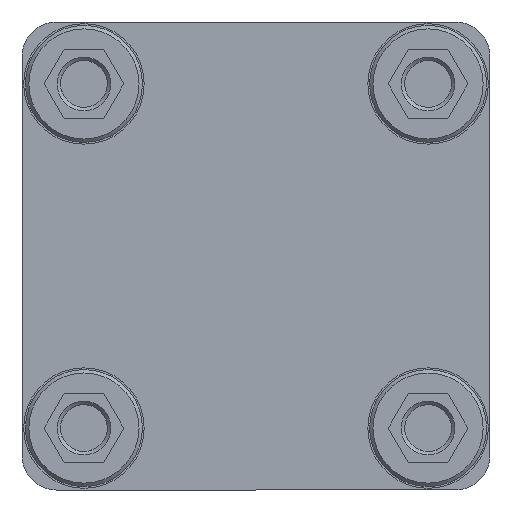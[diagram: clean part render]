
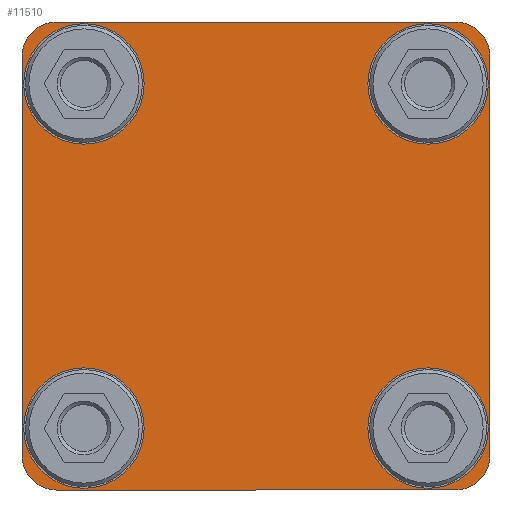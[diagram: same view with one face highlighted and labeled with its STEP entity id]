
A CAD part, left-side view. The second image highlights one B-rep face of the part: STEP entity #11510.
In plain terms, the highlighted planar face has unit normal (-1, 0, 0) as drawn and (1, 0, 0) by its records, which use the part's own axes.
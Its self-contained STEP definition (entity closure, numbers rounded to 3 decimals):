
#1345=FACE_BOUND('',#2401,.T.);
#1346=FACE_BOUND('',#2402,.T.);
#1347=FACE_BOUND('',#2403,.T.);
#1348=FACE_BOUND('',#2404,.T.);
#1476=PLANE('',#12356);
#1720=FACE_OUTER_BOUND('',#2400,.T.);
#2400=EDGE_LOOP('',(#7968,#7969,#7970,#7971,#7972,#7973,#7974,#7975));
#2401=EDGE_LOOP('',(#7976));
#2402=EDGE_LOOP('',(#7977));
#2403=EDGE_LOOP('',(#7978));
#2404=EDGE_LOOP('',(#7979));
#3162=LINE('',#15477,#3913);
#3166=LINE('',#15486,#3917);
#3172=LINE('',#15499,#3923);
#3176=LINE('',#15510,#3927);
#3913=VECTOR('',#13148,58.);
#3917=VECTOR('',#13154,58.);
#3923=VECTOR('',#13162,58.);
#3927=VECTOR('',#13170,58.);
#4652=CIRCLE('',#12285,8.75);
#4655=CIRCLE('',#12290,8.75);
#4658=CIRCLE('',#12295,8.75);
#4661=CIRCLE('',#12300,8.75);
#4676=CIRCLE('',#12328,5.);
#4677=CIRCLE('',#12330,5.);
#4678=CIRCLE('',#12332,5.);
#4679=CIRCLE('',#12334,5.);
#4881=VERTEX_POINT('',#15385);
#4884=VERTEX_POINT('',#15394);
#4887=VERTEX_POINT('',#15403);
#4890=VERTEX_POINT('',#15412);
#4903=VERTEX_POINT('',#15475);
#4904=VERTEX_POINT('',#15476);
#4907=VERTEX_POINT('',#15484);
#4908=VERTEX_POINT('',#15485);
#4913=VERTEX_POINT('',#15496);
#4914=VERTEX_POINT('',#15498);
#4918=VERTEX_POINT('',#15507);
#4919=VERTEX_POINT('',#15509);
#6062=EDGE_CURVE('',#4881,#4881,#4652,.T.);
#6066=EDGE_CURVE('',#4884,#4884,#4655,.T.);
#6070=EDGE_CURVE('',#4887,#4887,#4658,.T.);
#6074=EDGE_CURVE('',#4890,#4890,#4661,.T.);
#6094=EDGE_CURVE('',#4903,#4904,#3162,.T.);
#6098=EDGE_CURVE('',#4907,#4908,#3166,.T.);
#6104=EDGE_CURVE('',#4913,#4914,#3172,.T.);
#6109=EDGE_CURVE('',#4918,#4919,#3176,.T.);
#6116=EDGE_CURVE('',#4918,#4904,#4676,.T.);
#6117=EDGE_CURVE('',#4903,#4908,#4677,.T.);
#6118=EDGE_CURVE('',#4913,#4919,#4678,.T.);
#6119=EDGE_CURVE('',#4907,#4914,#4679,.T.);
#7968=ORIENTED_EDGE('',*,*,#6109,.F.);
#7969=ORIENTED_EDGE('',*,*,#6116,.T.);
#7970=ORIENTED_EDGE('',*,*,#6094,.F.);
#7971=ORIENTED_EDGE('',*,*,#6117,.T.);
#7972=ORIENTED_EDGE('',*,*,#6098,.F.);
#7973=ORIENTED_EDGE('',*,*,#6119,.T.);
#7974=ORIENTED_EDGE('',*,*,#6104,.F.);
#7975=ORIENTED_EDGE('',*,*,#6118,.T.);
#7976=ORIENTED_EDGE('',*,*,#6062,.T.);
#7977=ORIENTED_EDGE('',*,*,#6066,.T.);
#7978=ORIENTED_EDGE('',*,*,#6070,.T.);
#7979=ORIENTED_EDGE('',*,*,#6074,.T.);
#11510=ADVANCED_FACE('',(#1720,#1345,#1346,#1347,#1348),#1476,.T.);
#12285=AXIS2_PLACEMENT_3D('',#15386,#13072,#13073);
#12290=AXIS2_PLACEMENT_3D('',#15395,#13083,#13084);
#12295=AXIS2_PLACEMENT_3D('',#15404,#13094,#13095);
#12300=AXIS2_PLACEMENT_3D('',#15413,#13105,#13106);
#12328=AXIS2_PLACEMENT_3D('',#15520,#13186,#13187);
#12330=AXIS2_PLACEMENT_3D('',#15522,#13190,#13191);
#12332=AXIS2_PLACEMENT_3D('',#15524,#13194,#13195);
#12334=AXIS2_PLACEMENT_3D('',#15526,#13198,#13199);
#12356=AXIS2_PLACEMENT_3D('',#15565,#13248,#13249);
#13072=DIRECTION('center_axis',(-1.,0.,0.));
#13073=DIRECTION('ref_axis',(0.,1.,0.));
#13083=DIRECTION('center_axis',(-1.,0.,0.));
#13084=DIRECTION('ref_axis',(0.,1.,0.));
#13094=DIRECTION('center_axis',(-1.,0.,0.));
#13095=DIRECTION('ref_axis',(0.,1.,0.));
#13105=DIRECTION('center_axis',(-1.,0.,0.));
#13106=DIRECTION('ref_axis',(0.,1.,0.));
#13148=DIRECTION('',(0.,0.,1.));
#13154=DIRECTION('',(0.,-1.,0.));
#13162=DIRECTION('',(0.,0.,-1.));
#13170=DIRECTION('',(0.,1.,0.));
#13186=DIRECTION('center_axis',(1.,0.,0.));
#13187=DIRECTION('ref_axis',(0.,0.,-1.));
#13190=DIRECTION('center_axis',(1.,0.,0.));
#13191=DIRECTION('ref_axis',(0.,0.,-1.));
#13194=DIRECTION('center_axis',(1.,0.,0.));
#13195=DIRECTION('ref_axis',(0.,0.,-1.));
#13198=DIRECTION('center_axis',(1.,0.,0.));
#13199=DIRECTION('ref_axis',(0.,0.,-1.));
#13248=DIRECTION('center_axis',(1.,0.,0.));
#13249=DIRECTION('ref_axis',(0.,0.,-1.));
#15385=CARTESIAN_POINT('',(0.,16.25,25.));
#15386=CARTESIAN_POINT('Origin',(0.,25.,25.));
#15394=CARTESIAN_POINT('',(0.,16.25,-25.));
#15395=CARTESIAN_POINT('Origin',(0.,25.,-25.));
#15403=CARTESIAN_POINT('',(0.,-33.75,25.));
#15404=CARTESIAN_POINT('Origin',(0.,-25.,25.));
#15412=CARTESIAN_POINT('',(0.,-33.75,-25.));
#15413=CARTESIAN_POINT('Origin',(0.,-25.,-25.));
#15475=CARTESIAN_POINT('',(0.,-34.,-29.));
#15476=CARTESIAN_POINT('',(0.,-34.,29.));
#15477=CARTESIAN_POINT('',(0.,-34.,-29.));
#15484=CARTESIAN_POINT('',(0.,29.,-34.));
#15485=CARTESIAN_POINT('',(0.,-29.,-34.));
#15486=CARTESIAN_POINT('',(0.,29.,-34.));
#15496=CARTESIAN_POINT('',(0.,34.,29.));
#15498=CARTESIAN_POINT('',(0.,34.,-29.));
#15499=CARTESIAN_POINT('',(0.,34.,29.));
#15507=CARTESIAN_POINT('',(0.,-29.,34.));
#15509=CARTESIAN_POINT('',(0.,29.,34.));
#15510=CARTESIAN_POINT('',(0.,-29.,34.));
#15520=CARTESIAN_POINT('Origin',(0.,-29.,29.));
#15522=CARTESIAN_POINT('Origin',(0.,-29.,-29.));
#15524=CARTESIAN_POINT('Origin',(0.,29.,29.));
#15526=CARTESIAN_POINT('Origin',(0.,29.,-29.));
#15565=CARTESIAN_POINT('Origin',(0.,0.,0.));
